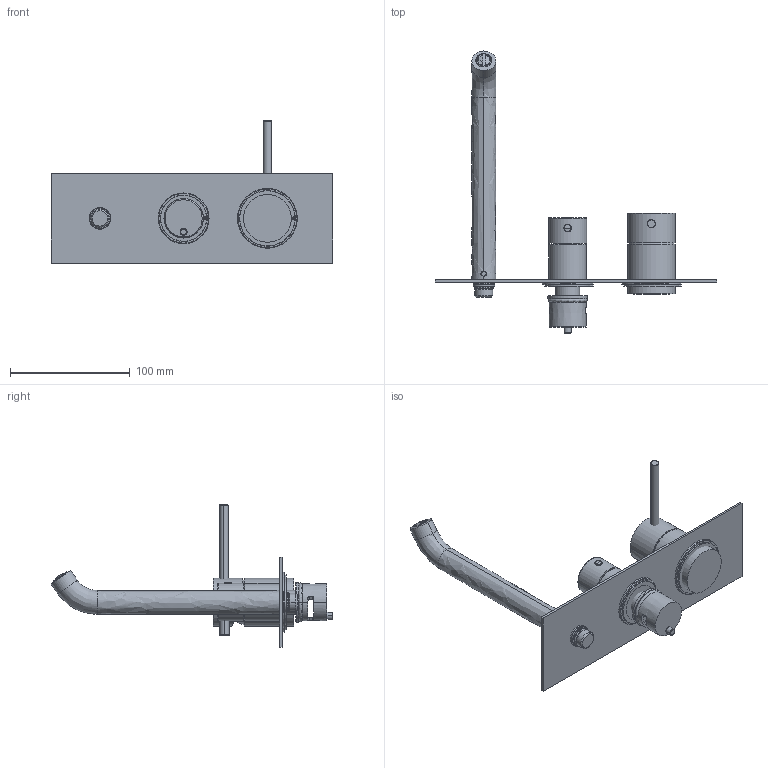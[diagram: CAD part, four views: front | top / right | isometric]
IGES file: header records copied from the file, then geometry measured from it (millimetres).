
Start section:  PTC IGES file: 69528v221_sw0001.igs
Global section: file name: 69528v221_sw0001.igs; native system: Creo Parametric by PTC Inc.; preprocessor: 2022014; author: volponeff; organization: Unknown; date: 20230605.143629; units: millimetre
Bounding box: 235 x 235.63 x 119 mm (x, y, z)
Surface area: 88829.7 mm2 (no closed solid volume)
Topology: 0 solids, 0 shells, 198 faces, 1213 edges, 1211 vertices
Faces by surface type: revolution 136, bspline 62
